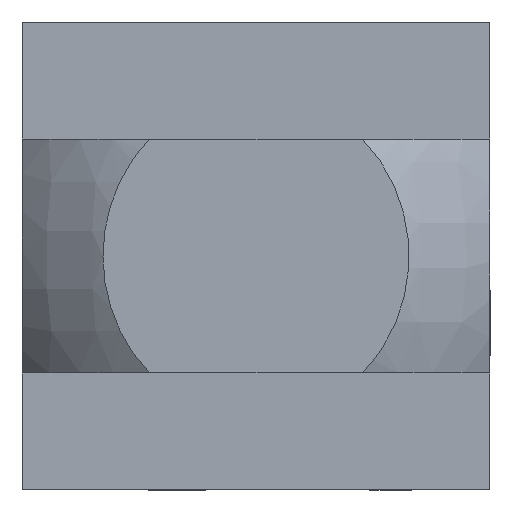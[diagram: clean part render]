
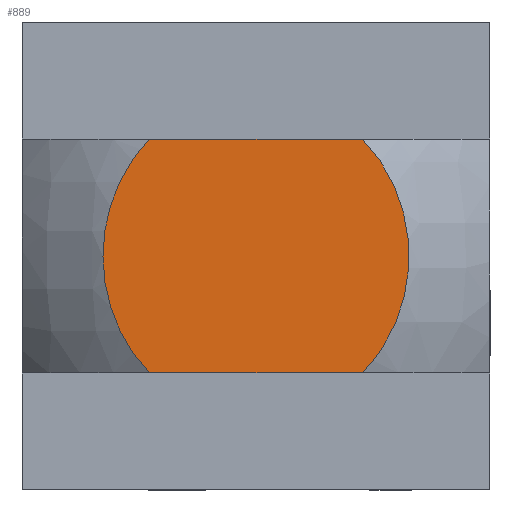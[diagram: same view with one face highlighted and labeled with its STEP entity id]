
A CAD part, left-side view. The second image highlights one B-rep face of the part: STEP entity #889.
In plain terms, the highlighted planar face has unit normal (-1, 0, 0).
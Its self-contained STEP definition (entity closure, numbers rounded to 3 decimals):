
#445 = CARTESIAN_POINT ( 'NONE',  ( -13., -3.249, -0.46 ) ) ;
#446 = CARTESIAN_POINT ( 'NONE',  ( -13., -3.27, -0.231 ) ) ;
#447 = CARTESIAN_POINT ( 'NONE',  ( -13., -3.27, 0.226 ) ) ;
#448 = CARTESIAN_POINT ( 'NONE',  ( -13., -3.249, 0.458 ) ) ;
#449 = CARTESIAN_POINT ( 'NONE',  ( -13., -3.163, 0.911 ) ) ;
#450 = CARTESIAN_POINT ( 'NONE',  ( -13., -3.1, 1.131 ) ) ;
#451 = CARTESIAN_POINT ( 'NONE',  ( -13., -2.931, 1.558 ) ) ;
#452 = CARTESIAN_POINT ( 'NONE',  ( -13., -2.825, 1.767 ) ) ;
#453 = CARTESIAN_POINT ( 'NONE',  ( -13., -2.578, 2.153 ) ) ;
#454 = CARTESIAN_POINT ( 'NONE',  ( -13., -2.436, 2.333 ) ) ;
#455 = DIRECTION ( 'NONE',  ( 0., 1., 0. ) ) ;
#456 = VECTOR ( 'NONE', #455, 1000. ) ;
#457 = CARTESIAN_POINT ( 'NONE',  ( -13., -5., 2.5 ) ) ;
#458 = LINE ( 'NONE', #457, #456 ) ;
#459 = CARTESIAN_POINT ( 'NONE',  ( -13., -2.275, 2.5 ) ) ;
#460 = CARTESIAN_POINT ( 'NONE',  ( -13., -2.275, 2.5 ) ) ;
#461 = B_SPLINE_CURVE_WITH_KNOTS ( 'NONE', 3,
 ( #459, #454, #453, #452, #451, #450, #449, #448, #447, #446, #445, #507, #506, #505, #504, #503, #502, #501 ),
 .UNSPECIFIED., .F., .F.,
 ( 4, 2, 2, 2, 2, 2, 2, 2, 4 ),
 ( 0.008, 0.009, 0.009, 0.01, 0.011, 0.011, 0.012, 0.013, 0.013 ),
 .UNSPECIFIED. ) ;
#462 = CARTESIAN_POINT ( 'NONE',  ( -13., -2.275, -2.5 ) ) ;
#478 = CARTESIAN_POINT ( 'NONE',  ( -13., 2.275, -2.5 ) ) ;
#479 = B_SPLINE_CURVE_WITH_KNOTS ( 'NONE', 3,
 ( #544, #543, #542, #541, #540, #539, #538, #537, #536, #535, #534, #533, #532, #531, #530, #529, #528, #527 ),
 .UNSPECIFIED., .F., .F.,
 ( 4, 2, 2, 2, 2, 2, 2, 2, 4 ),
 ( 0.018, 0.019, 0.02, 0.02, 0.021, 0.022, 0.022, 0.023, 0.024 ),
 .UNSPECIFIED. ) ;
#480 = LINE ( 'NONE', #486, #485 ) ;
#484 = DIRECTION ( 'NONE',  ( 0., 1., 0. ) ) ;
#485 = VECTOR ( 'NONE', #484, 1000. ) ;
#486 = CARTESIAN_POINT ( 'NONE',  ( -13., -5., -2.5 ) ) ;
#487 = CARTESIAN_POINT ( 'NONE',  ( -13., 2.275, 2.5 ) ) ;
#501 = CARTESIAN_POINT ( 'NONE',  ( -13., -2.275, -2.5 ) ) ;
#502 = CARTESIAN_POINT ( 'NONE',  ( -13., -2.434, -2.336 ) ) ;
#503 = CARTESIAN_POINT ( 'NONE',  ( -13., -2.575, -2.156 ) ) ;
#504 = CARTESIAN_POINT ( 'NONE',  ( -13., -2.825, -1.767 ) ) ;
#505 = CARTESIAN_POINT ( 'NONE',  ( -13., -2.93, -1.561 ) ) ;
#506 = CARTESIAN_POINT ( 'NONE',  ( -13., -3.098, -1.136 ) ) ;
#507 = CARTESIAN_POINT ( 'NONE',  ( -13., -3.162, -0.914 ) ) ;
#508 = PLANE ( 'NONE',  #574 ) ;
#509 = FACE_OUTER_BOUND ( 'NONE', #855, .T. ) ;
#527 = CARTESIAN_POINT ( 'NONE',  ( -13., 2.275, 2.5 ) ) ;
#528 = CARTESIAN_POINT ( 'NONE',  ( -13., 2.433, 2.336 ) ) ;
#529 = CARTESIAN_POINT ( 'NONE',  ( -13., 2.578, 2.152 ) ) ;
#530 = CARTESIAN_POINT ( 'NONE',  ( -13., 2.825, 1.766 ) ) ;
#531 = CARTESIAN_POINT ( 'NONE',  ( -13., 2.929, 1.563 ) ) ;
#532 = CARTESIAN_POINT ( 'NONE',  ( -13., 3.098, 1.135 ) ) ;
#533 = CARTESIAN_POINT ( 'NONE',  ( -13., 3.163, 0.912 ) ) ;
#534 = CARTESIAN_POINT ( 'NONE',  ( -13., 3.248, 0.462 ) ) ;
#535 = CARTESIAN_POINT ( 'NONE',  ( -13., 3.27, 0.234 ) ) ;
#536 = CARTESIAN_POINT ( 'NONE',  ( -13., 3.27, -0.229 ) ) ;
#537 = CARTESIAN_POINT ( 'NONE',  ( -13., 3.249, -0.458 ) ) ;
#538 = CARTESIAN_POINT ( 'NONE',  ( -13., 3.163, -0.912 ) ) ;
#539 = CARTESIAN_POINT ( 'NONE',  ( -13., 3.099, -1.135 ) ) ;
#540 = CARTESIAN_POINT ( 'NONE',  ( -13., 2.93, -1.56 ) ) ;
#541 = CARTESIAN_POINT ( 'NONE',  ( -13., 2.826, -1.766 ) ) ;
#542 = CARTESIAN_POINT ( 'NONE',  ( -13., 2.576, -2.155 ) ) ;
#543 = CARTESIAN_POINT ( 'NONE',  ( -13., 2.434, -2.335 ) ) ;
#544 = CARTESIAN_POINT ( 'NONE',  ( -13., 2.275, -2.5 ) ) ;
#571 = DIRECTION ( 'NONE',  ( 0., 0., 1. ) ) ;
#572 = DIRECTION ( 'NONE',  ( -1., 0., 0. ) ) ;
#573 = CARTESIAN_POINT ( 'NONE',  ( -13., 5., -5. ) ) ;
#574 = AXIS2_PLACEMENT_3D ( 'NONE', #573, #572, #571 ) ;
#855 = EDGE_LOOP ( 'NONE', ( #865, #869, #875, #879 ) ) ;
#865 = ORIENTED_EDGE ( 'NONE', *, *, #866, .F. ) ;
#866 = EDGE_CURVE ( 'NONE', #867, #868, #461, .T. ) ;
#867 = VERTEX_POINT ( 'NONE', #460 ) ;
#868 = VERTEX_POINT ( 'NONE', #462 ) ;
#869 = ORIENTED_EDGE ( 'NONE', *, *, #870, .T. ) ;
#870 = EDGE_CURVE ( 'NONE', #867, #874, #458, .T. ) ;
#874 = VERTEX_POINT ( 'NONE', #487 ) ;
#875 = ORIENTED_EDGE ( 'NONE', *, *, #876, .F. ) ;
#876 = EDGE_CURVE ( 'NONE', #877, #874, #479, .T. ) ;
#877 = VERTEX_POINT ( 'NONE', #478 ) ;
#879 = ORIENTED_EDGE ( 'NONE', *, *, #880, .F. ) ;
#880 = EDGE_CURVE ( 'NONE', #868, #877, #480, .T. ) ;
#889 = ADVANCED_FACE ( 'NONE', ( #509 ), #508, .T. ) ;
